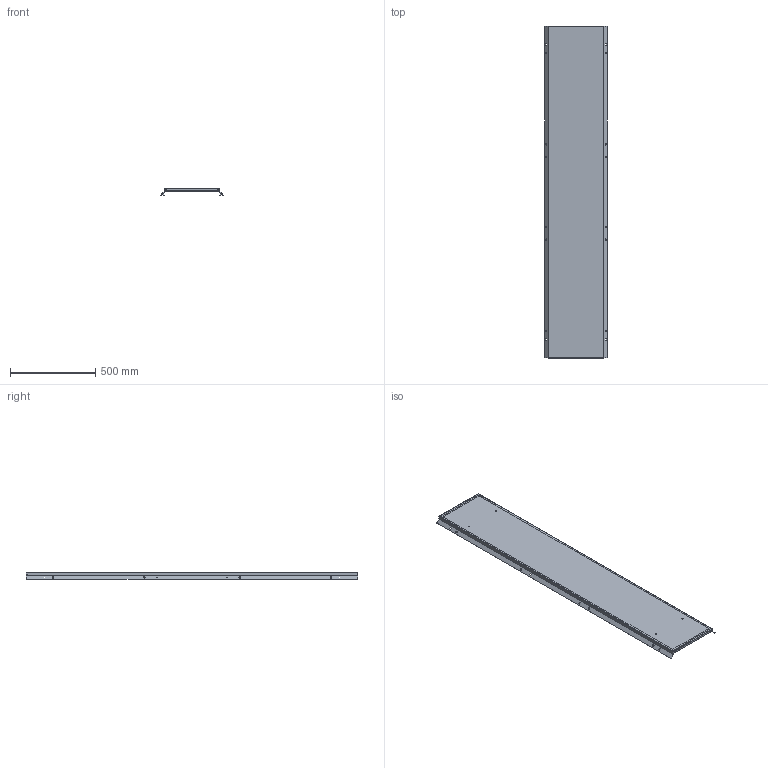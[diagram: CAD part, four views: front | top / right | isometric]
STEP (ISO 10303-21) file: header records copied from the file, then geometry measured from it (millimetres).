
FILE_DESCRIPTION (( 'STEP AP203' ), '1' );
FILE_NAME ('MA1.200.040620.10.00 AleSta-PR204 Ïàíåëü çàäíÿÿ, äëÿ øêàôîâ ALESTA, 2000 x 400.STEP', '2025-02-19T15:07:45', ( '' ), ( '' ), 'SwSTEP 2.0', 'SolidWorks 2021', '' );
FILE_SCHEMA (( 'CONFIG_CONTROL_DESIGN' ));
Length unit declared in the file: millimetre
Products named in the file (6): MA1.200.060620.11.00 Ïàíåëü çàäíÿÿ, äëÿ øêàôîâ AleSta, 2000x600_2000å400; Øïèëüêà Ì6õ12_˜¯¨«ìª  Œ6å12; MA1.200.040620.10.00 AleSta-PR204  Ïàíåëü çàäíÿÿ, äëÿ øêàôîâ ALESTA, 2000 x 400; Óïëîòíèòåëü ïàíåëè íèæíåé_  ‚=2000; MA1.200.060620.11.01 Ïîëîòíî çàäíåé ïàíåëè 2000õ600_2000å400; Âèíò ñàìîíàðåçàþùèé ñ ïîòàéíîé ãîëîâêîé Ì5x16 DIN 7500 M TORX, êëàññ ïðî÷íîñòè 8.8, îöèíêîâàííàÿ ñòàëü_Œ5å16
Assembly tree (15 placements, depth 3):
  MA1.200.040620.10.00 AleSta-PR204  Ïàíåëü çàäíÿÿ, äëÿ øêàôîâ ALESTA, 2000 x 400
    MA1.200.060620.11.00 Ïàíåëü çàäíÿÿ, äëÿ øêàôîâ AleSta, 2000x600_2000å400
      MA1.200.060620.11.01 Ïîëîòíî çàäíåé ïàíåëè 2000õ600_2000å400
      Óïëîòíèòåëü ïàíåëè íèæíåé_  ‚=2000
      Øïèëüêà Ì6õ12_˜¯¨«ìª  Œ6å12  x4
    Âèíò ñàìîíàðåçàþùèé ñ ïîòàéíîé ãîëîâêîé Ì5x16 DIN 7500 M TORX, êëàññ ïðî÷íîñòè 8.8, îöèíêîâàííàÿ ñòàëü_Œ5å16  x8
Bounding box: 365.31 x 1945 x 41.7 mm (x, y, z)
Volume: 1108610.2 mm3; surface area: 1795544 mm2
Topology: 14 solids, 14 shells, 544 faces, 1352 edges, 864 vertices
Faces by surface type: cylinder 304, plane 184, cone 40, bspline 8, torus 8
Entity records: 7885 total; most frequent: CARTESIAN_POINT 1623, DIRECTION 1165, ORIENTED_EDGE 1074, EDGE_CURVE 537, AXIS2_PLACEMENT_3D 424, VERTEX_POINT 332, LINE 317, VECTOR 317
